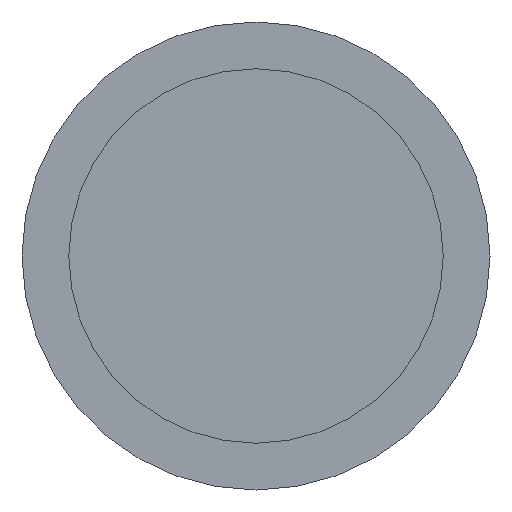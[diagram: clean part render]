
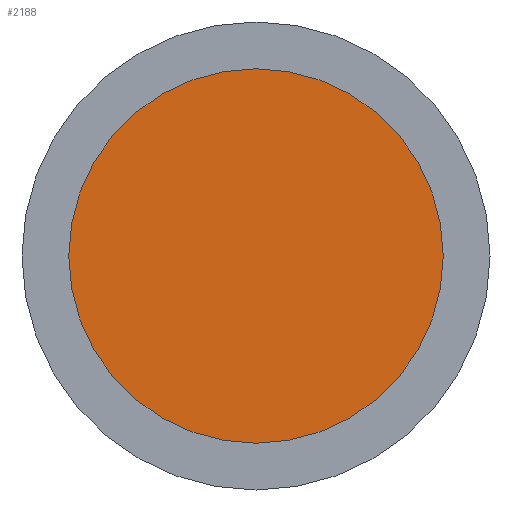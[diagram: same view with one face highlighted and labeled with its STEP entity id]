
A CAD part, front view. The second image highlights one B-rep face of the part: STEP entity #2188.
In plain terms, the highlighted planar face has unit normal (0, -1, 0).
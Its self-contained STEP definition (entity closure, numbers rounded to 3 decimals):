
#326=PLANE('',#2244);
#449=FACE_OUTER_BOUND('',#580,.T.);
#580=EDGE_LOOP('',(#2061));
#862=CIRCLE('',#2242,60.);
#1080=VERTEX_POINT('',#4674);
#1406=EDGE_CURVE('',#1080,#1080,#862,.T.);
#2061=ORIENTED_EDGE('',*,*,#1406,.T.);
#2188=ADVANCED_FACE('',(#449),#326,.T.);
#2242=AXIS2_PLACEMENT_3D('',#4675,#2456,#2457);
#2244=AXIS2_PLACEMENT_3D('',#4679,#2461,#2462);
#2456=DIRECTION('center_axis',(0.,-1.,0.));
#2457=DIRECTION('ref_axis',(1.,0.,0.));
#2461=DIRECTION('center_axis',(0.,-1.,0.));
#2462=DIRECTION('ref_axis',(1.,0.,0.));
#4674=CARTESIAN_POINT('',(-60.,-43.,0.));
#4675=CARTESIAN_POINT('Origin',(0.,-43.,0.));
#4679=CARTESIAN_POINT('Origin',(0.,-43.,0.));
